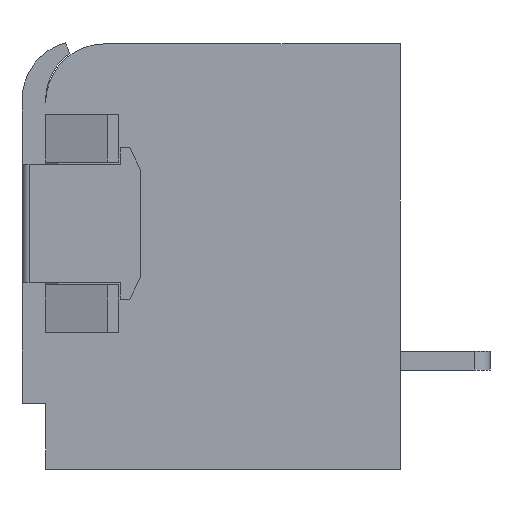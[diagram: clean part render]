
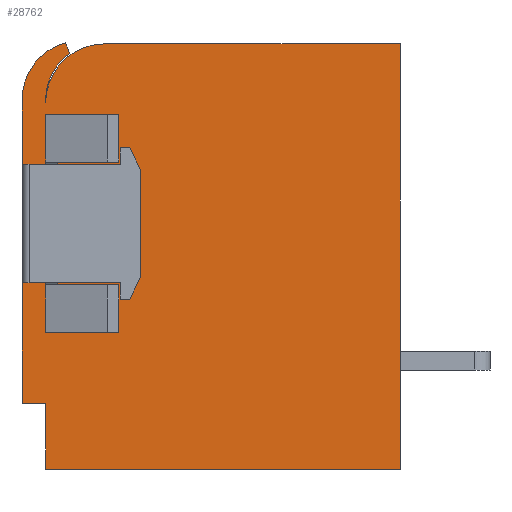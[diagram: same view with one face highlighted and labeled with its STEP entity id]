
A CAD part, left-side view. The second image highlights one B-rep face of the part: STEP entity #28762.
In plain terms, the highlighted planar face has unit normal (-1, 0, 0).
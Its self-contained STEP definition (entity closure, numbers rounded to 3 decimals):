
#5=DIRECTION('',(0.,1.,0.));
#6=VECTOR('',#5,1.);
#7=CARTESIAN_POINT('',(0.75,15.,-15.21));
#8=LINE('',#7,#6);
#158=DIRECTION('',(0.,0.,-1.));
#159=VECTOR('',#158,0.1);
#160=CARTESIAN_POINT('',(0.75,15.,-5.));
#161=LINE('',#160,#159);
#174=DIRECTION('',(0.,0.,-1.));
#175=VECTOR('',#174,0.127);
#176=CARTESIAN_POINT('',(0.75,15.,-2.373));
#177=LINE('',#176,#175);
#266=DIRECTION('',(0.,0.,1.));
#267=VECTOR('',#266,2.727);
#268=CARTESIAN_POINT('',(0.75,16.,-5.1));
#269=LINE('',#268,#267);
#408=DIRECTION('',(0.,0.,-1.));
#409=VECTOR('',#408,2.79);
#410=CARTESIAN_POINT('',(0.75,15.,-15.21));
#411=LINE('',#410,#409);
#412=DIRECTION('',(0.,0.,-1.));
#413=VECTOR('',#412,5.11);
#414=CARTESIAN_POINT('',(0.75,16.,-10.1));
#415=LINE('',#414,#413);
#416=DIRECTION('',(0.,1.,0.));
#417=VECTOR('',#416,1.);
#418=CARTESIAN_POINT('',(0.75,15.,-10.1));
#419=LINE('',#418,#417);
#420=DIRECTION('',(0.,0.,1.));
#421=VECTOR('',#420,0.1);
#422=CARTESIAN_POINT('',(0.75,15.,-10.2));
#423=LINE('',#422,#421);
#424=DIRECTION('',(0.,-1.,0.));
#425=VECTOR('',#424,2.65);
#426=CARTESIAN_POINT('',(0.75,14.5,-10.1));
#427=LINE('',#426,#425);
#428=DIRECTION('',(0.,0.,-1.));
#429=VECTOR('',#428,0.7);
#430=CARTESIAN_POINT('',(0.75,11.85,-10.1));
#431=LINE('',#430,#429);
#432=DIRECTION('',(0.,-1.,0.));
#433=VECTOR('',#432,0.418);
#434=CARTESIAN_POINT('',(0.75,11.85,-10.8));
#435=LINE('',#434,#433);
#436=DIRECTION('',(0.,-0.433,0.902));
#437=VECTOR('',#436,0.998);
#438=CARTESIAN_POINT('',(0.75,11.432,-10.8));
#439=LINE('',#438,#437);
#440=DIRECTION('',(0.,0.,1.));
#441=VECTOR('',#440,4.6);
#442=CARTESIAN_POINT('',(0.75,11.,-9.9));
#443=LINE('',#442,#441);
#444=DIRECTION('',(0.,0.433,0.902));
#445=VECTOR('',#444,0.998);
#446=CARTESIAN_POINT('',(0.75,11.,-5.3));
#447=LINE('',#446,#445);
#448=DIRECTION('',(0.,1.,0.));
#449=VECTOR('',#448,0.418);
#450=CARTESIAN_POINT('',(0.75,11.432,-4.4));
#451=LINE('',#450,#449);
#452=DIRECTION('',(0.,0.,-1.));
#453=VECTOR('',#452,0.7);
#454=CARTESIAN_POINT('',(0.75,11.85,-4.4));
#455=LINE('',#454,#453);
#456=DIRECTION('',(0.,-1.,0.));
#457=VECTOR('',#456,2.65);
#458=CARTESIAN_POINT('',(0.75,14.5,-5.1));
#459=LINE('',#458,#457);
#460=CARTESIAN_POINT('',(0.75,13.485,-2.373));
#461=DIRECTION('',(-1.,0.,0.));
#462=DIRECTION('',(0.,0.271,0.963));
#463=AXIS2_PLACEMENT_3D('',#460,#461,#462);
#465=DIRECTION('',(0.,0.39,0.921));
#466=VECTOR('',#465,0.497);
#467=CARTESIAN_POINT('',(0.75,13.973,-0.41));
#468=LINE('',#467,#466);
#469=CARTESIAN_POINT('',(0.75,12.611,-2.373));
#470=DIRECTION('',(1.,0.,0.));
#471=DIRECTION('',(0.,1.,0.));
#472=AXIS2_PLACEMENT_3D('',#469,#470,#471);
#474=CARTESIAN_POINT('',(0.75,12.5,-2.5));
#475=DIRECTION('',(-1.,0.,0.));
#476=DIRECTION('',(0.,0.,1.));
#477=AXIS2_PLACEMENT_3D('',#474,#475,#476);
#479=DIRECTION('',(0.,-1.,0.));
#480=VECTOR('',#479,15.);
#481=CARTESIAN_POINT('',(0.75,15.,-18.));
#482=LINE('',#481,#480);
#509=DIRECTION('',(0.,0.,1.));
#510=VECTOR('',#509,0.1);
#511=CARTESIAN_POINT('',(0.75,14.5,-5.1));
#512=LINE('',#511,#510);
#517=DIRECTION('',(0.,0.,1.));
#518=VECTOR('',#517,0.1);
#519=CARTESIAN_POINT('',(0.75,14.5,-10.2));
#520=LINE('',#519,#518);
#533=DIRECTION('',(0.,-1.,0.));
#534=VECTOR('',#533,2.6);
#535=CARTESIAN_POINT('',(0.75,14.5,-5.));
#536=LINE('',#535,#534);
#541=DIRECTION('',(0.,0.,-1.));
#542=VECTOR('',#541,2.);
#543=CARTESIAN_POINT('',(0.75,15.,-3.));
#544=LINE('',#543,#542);
#545=DIRECTION('',(0.,1.,0.));
#546=VECTOR('',#545,3.1);
#547=CARTESIAN_POINT('',(0.75,11.9,-3.));
#548=LINE('',#547,#546);
#557=DIRECTION('',(0.,0.,1.));
#558=VECTOR('',#557,2.);
#559=CARTESIAN_POINT('',(0.75,11.9,-5.));
#560=LINE('',#559,#558);
#589=DIRECTION('',(0.,1.,0.));
#590=VECTOR('',#589,2.6);
#591=CARTESIAN_POINT('',(0.75,11.9,-10.2));
#592=LINE('',#591,#590);
#597=DIRECTION('',(0.,0.,1.));
#598=VECTOR('',#597,2.);
#599=CARTESIAN_POINT('',(0.75,11.9,-12.2));
#600=LINE('',#599,#598);
#609=DIRECTION('',(0.,-1.,0.));
#610=VECTOR('',#609,3.1);
#611=CARTESIAN_POINT('',(0.75,15.,-12.2));
#612=LINE('',#611,#610);
#617=DIRECTION('',(0.,0.,-1.));
#618=VECTOR('',#617,2.);
#619=CARTESIAN_POINT('',(0.75,15.,-10.2));
#620=LINE('',#619,#618);
#642=DIRECTION('',(0.,1.,0.));
#643=VECTOR('',#642,1.);
#644=CARTESIAN_POINT('',(0.75,15.,-5.1));
#645=LINE('',#644,#643);
#943=DIRECTION('',(0.,-1.,0.));
#944=VECTOR('',#943,12.5);
#945=CARTESIAN_POINT('',(0.75,12.5,0.));
#946=LINE('',#945,#944);
#24256=DIRECTION('',(0.,0.,-1.));
#24257=VECTOR('',#24256,18.);
#24258=CARTESIAN_POINT('',(0.75,0.,0.));
#24259=LINE('',#24258,#24257);
#24364=CARTESIAN_POINT('',(0.75,15.,-18.));
#24365=CARTESIAN_POINT('',(0.75,0.,-18.));
#24366=VERTEX_POINT('',#24364);
#24367=VERTEX_POINT('',#24365);
#24374=CARTESIAN_POINT('',(0.75,11.9,-12.2));
#24375=CARTESIAN_POINT('',(0.75,11.9,-10.2));
#24376=VERTEX_POINT('',#24374);
#24377=VERTEX_POINT('',#24375);
#24378=CARTESIAN_POINT('',(0.75,14.5,-10.2));
#24379=VERTEX_POINT('',#24378);
#24380=CARTESIAN_POINT('',(0.75,14.5,-5.));
#24381=CARTESIAN_POINT('',(0.75,11.9,-5.));
#24382=VERTEX_POINT('',#24380);
#24383=VERTEX_POINT('',#24381);
#24384=CARTESIAN_POINT('',(0.75,11.9,-3.));
#24385=VERTEX_POINT('',#24384);
#24386=CARTESIAN_POINT('',(0.75,12.5,0.));
#24387=CARTESIAN_POINT('',(0.75,0.,0.));
#24388=VERTEX_POINT('',#24386);
#24389=VERTEX_POINT('',#24387);
#25323=CARTESIAN_POINT('',(0.75,15.,-5.1));
#25324=CARTESIAN_POINT('',(0.75,16.,-5.1));
#25325=VERTEX_POINT('',#25323);
#25326=VERTEX_POINT('',#25324);
#25327=CARTESIAN_POINT('',(0.75,16.,-2.373));
#25328=VERTEX_POINT('',#25327);
#25329=CARTESIAN_POINT('',(0.75,14.167,0.047));
#25330=VERTEX_POINT('',#25329);
#25331=CARTESIAN_POINT('',(0.75,13.973,-0.41));
#25332=VERTEX_POINT('',#25331);
#25333=CARTESIAN_POINT('',(0.75,15.,-2.373));
#25334=VERTEX_POINT('',#25333);
#25347=CARTESIAN_POINT('',(0.75,16.,-10.1));
#25348=VERTEX_POINT('',#25347);
#25349=CARTESIAN_POINT('',(0.75,16.,-15.21));
#25350=VERTEX_POINT('',#25349);
#25357=CARTESIAN_POINT('',(0.75,15.,-10.1));
#25358=VERTEX_POINT('',#25357);
#27532=CARTESIAN_POINT('',(0.75,15.,-3.));
#27533=CARTESIAN_POINT('',(0.75,15.,-5.));
#27534=VERTEX_POINT('',#27532);
#27535=VERTEX_POINT('',#27533);
#27540=CARTESIAN_POINT('',(0.75,15.,-10.2));
#27541=CARTESIAN_POINT('',(0.75,15.,-12.2));
#27542=VERTEX_POINT('',#27540);
#27543=VERTEX_POINT('',#27541);
#27544=CARTESIAN_POINT('',(0.75,14.5,-5.1));
#27545=CARTESIAN_POINT('',(0.75,11.85,-5.1));
#27546=VERTEX_POINT('',#27544);
#27547=VERTEX_POINT('',#27545);
#27548=CARTESIAN_POINT('',(0.75,14.5,-10.1));
#27549=CARTESIAN_POINT('',(0.75,11.85,-10.1));
#27550=VERTEX_POINT('',#27548);
#27551=VERTEX_POINT('',#27549);
#27552=CARTESIAN_POINT('',(0.75,11.85,-10.8));
#27553=VERTEX_POINT('',#27552);
#27554=CARTESIAN_POINT('',(0.75,11.85,-4.4));
#27555=VERTEX_POINT('',#27554);
#27556=CARTESIAN_POINT('',(0.75,11.432,-4.4));
#27557=VERTEX_POINT('',#27556);
#27558=CARTESIAN_POINT('',(0.75,11.,-5.3));
#27559=VERTEX_POINT('',#27558);
#27560=CARTESIAN_POINT('',(0.75,11.,-9.9));
#27561=VERTEX_POINT('',#27560);
#27562=CARTESIAN_POINT('',(0.75,11.432,-10.8));
#27563=VERTEX_POINT('',#27562);
#27568=CARTESIAN_POINT('',(0.75,15.,-2.5));
#27570=VERTEX_POINT('',#27568);
#27578=CARTESIAN_POINT('',(0.75,15.,-15.21));
#27579=VERTEX_POINT('',#27578);
#28695=CARTESIAN_POINT('',(0.75,-3.119,0.));
#28696=DIRECTION('',(1.,0.,0.));
#28697=DIRECTION('',(0.,1.,0.));
#28698=AXIS2_PLACEMENT_3D('',#28695,#28696,#28697);
#28699=PLANE('',#28698);
#28700=ORIENTED_EDGE('',*,*,#28065,.F.);
#28701=ORIENTED_EDGE('',*,*,#28084,.T.);
#28702=ORIENTED_EDGE('',*,*,#28406,.F.);
#28704=ORIENTED_EDGE('',*,*,#28703,.F.);
#28705=ORIENTED_EDGE('',*,*,#28248,.F.);
#28707=ORIENTED_EDGE('',*,*,#28706,.T.);
#28709=ORIENTED_EDGE('',*,*,#28708,.T.);
#28711=ORIENTED_EDGE('',*,*,#28710,.T.);
#28713=ORIENTED_EDGE('',*,*,#28712,.T.);
#28715=ORIENTED_EDGE('',*,*,#28714,.T.);
#28717=ORIENTED_EDGE('',*,*,#28716,.T.);
#28719=ORIENTED_EDGE('',*,*,#28718,.T.);
#28721=ORIENTED_EDGE('',*,*,#28720,.T.);
#28723=ORIENTED_EDGE('',*,*,#28722,.T.);
#28725=ORIENTED_EDGE('',*,*,#28724,.T.);
#28727=ORIENTED_EDGE('',*,*,#28726,.T.);
#28729=ORIENTED_EDGE('',*,*,#28728,.T.);
#28731=ORIENTED_EDGE('',*,*,#28730,.T.);
#28733=ORIENTED_EDGE('',*,*,#28732,.F.);
#28735=ORIENTED_EDGE('',*,*,#28734,.T.);
#28737=ORIENTED_EDGE('',*,*,#28736,.T.);
#28739=ORIENTED_EDGE('',*,*,#28738,.T.);
#28741=ORIENTED_EDGE('',*,*,#28740,.T.);
#28743=ORIENTED_EDGE('',*,*,#28742,.T.);
#28744=ORIENTED_EDGE('',*,*,#28266,.T.);
#28746=ORIENTED_EDGE('',*,*,#28745,.T.);
#28747=ORIENTED_EDGE('',*,*,#28398,.T.);
#28748=ORIENTED_EDGE('',*,*,#28663,.F.);
#28749=ORIENTED_EDGE('',*,*,#28677,.F.);
#28750=ORIENTED_EDGE('',*,*,#28690,.F.);
#28751=ORIENTED_EDGE('',*,*,#28307,.T.);
#28753=ORIENTED_EDGE('',*,*,#28752,.F.);
#28755=ORIENTED_EDGE('',*,*,#28754,.T.);
#28757=ORIENTED_EDGE('',*,*,#28756,.T.);
#28759=ORIENTED_EDGE('',*,*,#28758,.F.);
#28760=EDGE_LOOP('',(#28700,#28701,#28702,#28704,#28705,#28707,#28709,#28711,
#28713,#28715,#28717,#28719,#28721,#28723,#28725,#28727,#28729,#28731,#28733,
#28735,#28737,#28739,#28741,#28743,#28744,#28746,#28747,#28748,#28749,#28750,
#28751,#28753,#28755,#28757,#28759));
#28761=FACE_OUTER_BOUND('',#28760,.F.);
#28762=ADVANCED_FACE('',(#28761),#28699,.F.);
#464=CIRCLE('',#463,2.515);
#473=CIRCLE('',#472,2.389);
#478=CIRCLE('',#477,2.5);
#28065=EDGE_CURVE('',#27579,#24366,#411,.T.);
#28084=EDGE_CURVE('',#27579,#25350,#8,.T.);
#28248=EDGE_CURVE('',#27542,#25358,#423,.T.);
#28266=EDGE_CURVE('',#27535,#25325,#161,.T.);
#28307=EDGE_CURVE('',#25334,#27570,#177,.T.);
#28398=EDGE_CURVE('',#25326,#25328,#269,.T.);
#28406=EDGE_CURVE('',#25348,#25350,#415,.T.);
#28663=EDGE_CURVE('',#25330,#25328,#464,.T.);
#28677=EDGE_CURVE('',#25332,#25330,#468,.T.);
#28690=EDGE_CURVE('',#25334,#25332,#473,.T.);
#28703=EDGE_CURVE('',#25358,#25348,#419,.T.);
#28706=EDGE_CURVE('',#27542,#27543,#620,.T.);
#28708=EDGE_CURVE('',#27543,#24376,#612,.T.);
#28710=EDGE_CURVE('',#24376,#24377,#600,.T.);
#28712=EDGE_CURVE('',#24377,#24379,#592,.T.);
#28714=EDGE_CURVE('',#24379,#27550,#520,.T.);
#28716=EDGE_CURVE('',#27550,#27551,#427,.T.);
#28718=EDGE_CURVE('',#27551,#27553,#431,.T.);
#28720=EDGE_CURVE('',#27553,#27563,#435,.T.);
#28722=EDGE_CURVE('',#27563,#27561,#439,.T.);
#28724=EDGE_CURVE('',#27561,#27559,#443,.T.);
#28726=EDGE_CURVE('',#27559,#27557,#447,.T.);
#28728=EDGE_CURVE('',#27557,#27555,#451,.T.);
#28730=EDGE_CURVE('',#27555,#27547,#455,.T.);
#28732=EDGE_CURVE('',#27546,#27547,#459,.T.);
#28734=EDGE_CURVE('',#27546,#24382,#512,.T.);
#28736=EDGE_CURVE('',#24382,#24383,#536,.T.);
#28738=EDGE_CURVE('',#24383,#24385,#560,.T.);
#28740=EDGE_CURVE('',#24385,#27534,#548,.T.);
#28742=EDGE_CURVE('',#27534,#27535,#544,.T.);
#28745=EDGE_CURVE('',#25325,#25326,#645,.T.);
#28752=EDGE_CURVE('',#24388,#27570,#478,.T.);
#28754=EDGE_CURVE('',#24388,#24389,#946,.T.);
#28756=EDGE_CURVE('',#24389,#24367,#24259,.T.);
#28758=EDGE_CURVE('',#24366,#24367,#482,.T.);
